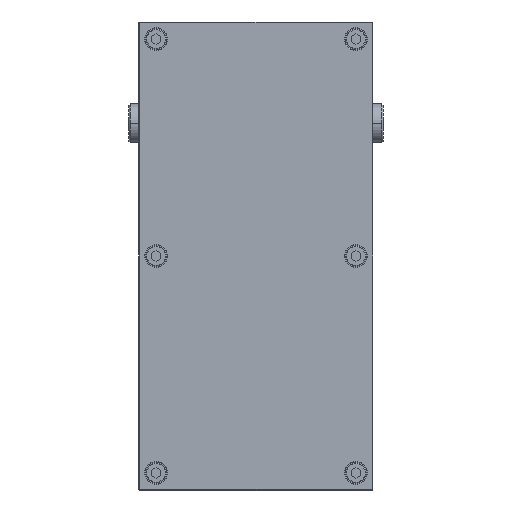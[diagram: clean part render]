
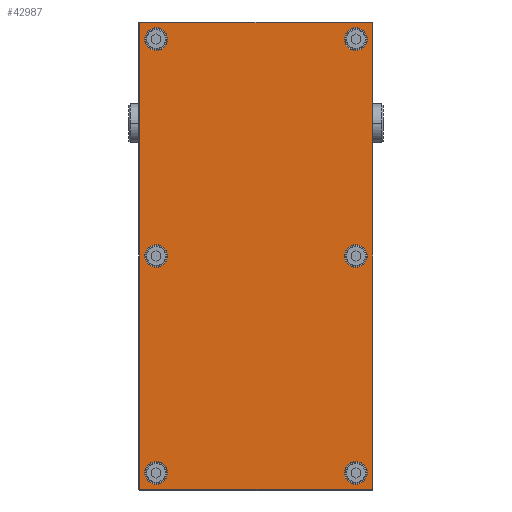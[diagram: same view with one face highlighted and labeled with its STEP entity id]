
A CAD part, front view. The second image highlights one B-rep face of the part: STEP entity #42987.
In plain terms, the highlighted planar face has unit normal (0, -1, 0).
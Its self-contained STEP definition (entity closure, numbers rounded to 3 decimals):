
#41546=CARTESIAN_POINT('',(149.,-9.,-74.));
#41547=DIRECTION('',(0.,-1.,0.));
#41548=DIRECTION('',(0.,0.,-1.));
#41549=AXIS2_PLACEMENT_3D('',#41546,#41547,#41548);
#41551=DIRECTION('',(1.,0.,0.));
#41552=VECTOR('',#41551,298.);
#41553=CARTESIAN_POINT('',(-149.,-9.,
-74.5));
#41554=LINE('',#41553,#41552);
#41555=CARTESIAN_POINT('',(-149.,-9.,-74.));
#41556=DIRECTION('',(0.,-1.,0.));
#41557=DIRECTION('',(-1.,0.,0.));
#41558=AXIS2_PLACEMENT_3D('',#41555,#41556,#41557);
#41560=DIRECTION('',(0.,0.,-1.));
#41561=VECTOR('',#41560,148.);
#41562=CARTESIAN_POINT('',(-149.5,-9.,74.));
#41563=LINE('',#41562,#41561);
#41564=CARTESIAN_POINT('',(-149.,-9.,74.));
#41565=DIRECTION('',(0.,-1.,0.));
#41566=DIRECTION('',(0.,0.,1.));
#41567=AXIS2_PLACEMENT_3D('',#41564,#41565,#41566);
#41569=DIRECTION('',(-1.,0.,0.));
#41570=VECTOR('',#41569,298.);
#41571=CARTESIAN_POINT('',(149.,-9.,
74.5));
#41572=LINE('',#41571,#41570);
#41573=CARTESIAN_POINT('',(149.,-9.,74.));
#41574=DIRECTION('',(0.,-1.,0.));
#41575=DIRECTION('',(1.,0.,0.));
#41576=AXIS2_PLACEMENT_3D('',#41573,#41574,#41575);
#41578=DIRECTION('',(0.,0.,1.));
#41579=VECTOR('',#41578,148.);
#41580=CARTESIAN_POINT('',(149.5,-9.,-74.));
#41581=LINE('',#41580,#41579);
#41582=CARTESIAN_POINT('',(-139.,-9.,-64.));
#41583=DIRECTION('',(0.,1.,0.));
#41584=DIRECTION('',(1.,0.,0.));
#41585=AXIS2_PLACEMENT_3D('',#41582,#41583,#41584);
#41587=CARTESIAN_POINT('',(-139.,-9.,-64.));
#41588=DIRECTION('',(0.,1.,0.));
#41589=DIRECTION('',(-1.,0.,0.));
#41590=AXIS2_PLACEMENT_3D('',#41587,#41588,#41589);
#41592=CARTESIAN_POINT('',(0.,-9.,-64.));
#41593=DIRECTION('',(0.,1.,0.));
#41594=DIRECTION('',(1.,0.,0.));
#41595=AXIS2_PLACEMENT_3D('',#41592,#41593,#41594);
#41597=CARTESIAN_POINT('',(0.,-9.,-64.));
#41598=DIRECTION('',(0.,1.,0.));
#41599=DIRECTION('',(-1.,0.,0.));
#41600=AXIS2_PLACEMENT_3D('',#41597,#41598,#41599);
#41602=CARTESIAN_POINT('',(139.,-9.,-64.));
#41603=DIRECTION('',(0.,1.,0.));
#41604=DIRECTION('',(1.,0.,0.));
#41605=AXIS2_PLACEMENT_3D('',#41602,#41603,#41604);
#41607=CARTESIAN_POINT('',(139.,-9.,-64.));
#41608=DIRECTION('',(0.,1.,0.));
#41609=DIRECTION('',(-1.,0.,0.));
#41610=AXIS2_PLACEMENT_3D('',#41607,#41608,#41609);
#41612=CARTESIAN_POINT('',(139.,-9.,64.));
#41613=DIRECTION('',(0.,1.,0.));
#41614=DIRECTION('',(1.,0.,0.));
#41615=AXIS2_PLACEMENT_3D('',#41612,#41613,#41614);
#41617=CARTESIAN_POINT('',(139.,-9.,64.));
#41618=DIRECTION('',(0.,1.,0.));
#41619=DIRECTION('',(-1.,0.,0.));
#41620=AXIS2_PLACEMENT_3D('',#41617,#41618,#41619);
#41622=CARTESIAN_POINT('',(0.,-9.,64.));
#41623=DIRECTION('',(0.,1.,0.));
#41624=DIRECTION('',(1.,0.,0.));
#41625=AXIS2_PLACEMENT_3D('',#41622,#41623,#41624);
#41627=CARTESIAN_POINT('',(0.,-9.,64.));
#41628=DIRECTION('',(0.,1.,0.));
#41629=DIRECTION('',(-1.,0.,0.));
#41630=AXIS2_PLACEMENT_3D('',#41627,#41628,#41629);
#41632=CARTESIAN_POINT('',(-139.,-9.,64.));
#41633=DIRECTION('',(0.,1.,0.));
#41634=DIRECTION('',(1.,0.,0.));
#41635=AXIS2_PLACEMENT_3D('',#41632,#41633,#41634);
#41637=CARTESIAN_POINT('',(-139.,-9.,64.));
#41638=DIRECTION('',(0.,1.,0.));
#41639=DIRECTION('',(-1.,0.,0.));
#41640=AXIS2_PLACEMENT_3D('',#41637,#41638,#41639);
#42716=CARTESIAN_POINT('',(149.,-9.,-74.5));
#42717=CARTESIAN_POINT('',(149.5,-9.,-74.));
#42718=VERTEX_POINT('',#42716);
#42719=VERTEX_POINT('',#42717);
#42724=CARTESIAN_POINT('',(149.5,-9.,
74.));
#42725=VERTEX_POINT('',#42724);
#42728=CARTESIAN_POINT('',(149.,-9.,74.5));
#42729=VERTEX_POINT('',#42728);
#42732=CARTESIAN_POINT('',(-149.,-9.,
74.5));
#42733=VERTEX_POINT('',#42732);
#42736=CARTESIAN_POINT('',(-149.5,-9.,74.));
#42737=VERTEX_POINT('',#42736);
#42740=CARTESIAN_POINT('',(-149.5,-9.,
-74.));
#42741=VERTEX_POINT('',#42740);
#42744=CARTESIAN_POINT('',(-149.,-9.,-74.5));
#42745=VERTEX_POINT('',#42744);
#42772=CARTESIAN_POINT('',(-131.7,-9.,-64.));
#42773=CARTESIAN_POINT('',(-146.3,-9.,-64.));
#42774=VERTEX_POINT('',#42772);
#42775=VERTEX_POINT('',#42773);
#42788=CARTESIAN_POINT('',(7.3,-9.,-64.));
#42789=CARTESIAN_POINT('',(-7.3,-9.,-64.));
#42790=VERTEX_POINT('',#42788);
#42791=VERTEX_POINT('',#42789);
#42812=CARTESIAN_POINT('',(146.3,-9.,-64.));
#42813=CARTESIAN_POINT('',(131.7,-9.,-64.));
#42814=VERTEX_POINT('',#42812);
#42815=VERTEX_POINT('',#42813);
#42828=CARTESIAN_POINT('',(146.3,-9.,64.));
#42829=CARTESIAN_POINT('',(131.7,-9.,64.));
#42830=VERTEX_POINT('',#42828);
#42831=VERTEX_POINT('',#42829);
#42836=CARTESIAN_POINT('',(7.3,-9.,64.));
#42837=CARTESIAN_POINT('',(-7.3,-9.,64.));
#42838=VERTEX_POINT('',#42836);
#42839=VERTEX_POINT('',#42837);
#42860=CARTESIAN_POINT('',(-131.7,-9.,64.));
#42861=CARTESIAN_POINT('',(-146.3,-9.,64.));
#42862=VERTEX_POINT('',#42860);
#42863=VERTEX_POINT('',#42861);
#42928=CARTESIAN_POINT('',(0.,-9.,0.));
#42929=DIRECTION('',(0.,1.,0.));
#42930=DIRECTION('',(1.,0.,0.));
#42931=AXIS2_PLACEMENT_3D('',#42928,#42929,#42930);
#42932=PLANE('',#42931);
#42934=ORIENTED_EDGE('',*,*,#42933,.F.);
#42936=ORIENTED_EDGE('',*,*,#42935,.F.);
#42938=ORIENTED_EDGE('',*,*,#42937,.F.);
#42940=ORIENTED_EDGE('',*,*,#42939,.F.);
#42942=ORIENTED_EDGE('',*,*,#42941,.F.);
#42944=ORIENTED_EDGE('',*,*,#42943,.F.);
#42946=ORIENTED_EDGE('',*,*,#42945,.F.);
#42948=ORIENTED_EDGE('',*,*,#42947,.F.);
#42949=EDGE_LOOP('',(#42934,#42936,#42938,#42940,#42942,#42944,#42946,#42948));
#42950=FACE_OUTER_BOUND('',#42949,.F.);
#42952=ORIENTED_EDGE('',*,*,#42951,.F.);
#42954=ORIENTED_EDGE('',*,*,#42953,.F.);
#42955=EDGE_LOOP('',(#42952,#42954));
#42956=FACE_BOUND('',#42955,.F.);
#42958=ORIENTED_EDGE('',*,*,#42957,.F.);
#42960=ORIENTED_EDGE('',*,*,#42959,.F.);
#42961=EDGE_LOOP('',(#42958,#42960));
#42962=FACE_BOUND('',#42961,.F.);
#42964=ORIENTED_EDGE('',*,*,#42963,.F.);
#42966=ORIENTED_EDGE('',*,*,#42965,.F.);
#42967=EDGE_LOOP('',(#42964,#42966));
#42968=FACE_BOUND('',#42967,.F.);
#42970=ORIENTED_EDGE('',*,*,#42969,.F.);
#42972=ORIENTED_EDGE('',*,*,#42971,.F.);
#42973=EDGE_LOOP('',(#42970,#42972));
#42974=FACE_BOUND('',#42973,.F.);
#42976=ORIENTED_EDGE('',*,*,#42975,.F.);
#42978=ORIENTED_EDGE('',*,*,#42977,.F.);
#42979=EDGE_LOOP('',(#42976,#42978));
#42980=FACE_BOUND('',#42979,.F.);
#42982=ORIENTED_EDGE('',*,*,#42981,.F.);
#42984=ORIENTED_EDGE('',*,*,#42983,.F.);
#42985=EDGE_LOOP('',(#42982,#42984));
#42986=FACE_BOUND('',#42985,.F.);
#42987=ADVANCED_FACE('',(#42950,#42956,#42962,#42968,#42974,#42980,#42986),
#42932,.F.);
#41550=CIRCLE('',#41549,0.5);
#41559=CIRCLE('',#41558,0.5);
#41568=CIRCLE('',#41567,0.5);
#41577=CIRCLE('',#41576,0.5);
#41586=CIRCLE('',#41585,7.3);
#41591=CIRCLE('',#41590,7.3);
#41596=CIRCLE('',#41595,7.3);
#41601=CIRCLE('',#41600,7.3);
#41606=CIRCLE('',#41605,7.3);
#41611=CIRCLE('',#41610,7.3);
#41616=CIRCLE('',#41615,7.3);
#41621=CIRCLE('',#41620,7.3);
#41626=CIRCLE('',#41625,7.3);
#41631=CIRCLE('',#41630,7.3);
#41636=CIRCLE('',#41635,7.3);
#41641=CIRCLE('',#41640,7.3);
#42933=EDGE_CURVE('',#42718,#42719,#41550,.T.);
#42935=EDGE_CURVE('',#42745,#42718,#41554,.T.);
#42937=EDGE_CURVE('',#42741,#42745,#41559,.T.);
#42939=EDGE_CURVE('',#42737,#42741,#41563,.T.);
#42941=EDGE_CURVE('',#42733,#42737,#41568,.T.);
#42943=EDGE_CURVE('',#42729,#42733,#41572,.T.);
#42945=EDGE_CURVE('',#42725,#42729,#41577,.T.);
#42947=EDGE_CURVE('',#42719,#42725,#41581,.T.);
#42951=EDGE_CURVE('',#42774,#42775,#41586,.T.);
#42953=EDGE_CURVE('',#42775,#42774,#41591,.T.);
#42957=EDGE_CURVE('',#42790,#42791,#41596,.T.);
#42959=EDGE_CURVE('',#42791,#42790,#41601,.T.);
#42963=EDGE_CURVE('',#42814,#42815,#41606,.T.);
#42965=EDGE_CURVE('',#42815,#42814,#41611,.T.);
#42969=EDGE_CURVE('',#42830,#42831,#41616,.T.);
#42971=EDGE_CURVE('',#42831,#42830,#41621,.T.);
#42975=EDGE_CURVE('',#42838,#42839,#41626,.T.);
#42977=EDGE_CURVE('',#42839,#42838,#41631,.T.);
#42981=EDGE_CURVE('',#42862,#42863,#41636,.T.);
#42983=EDGE_CURVE('',#42863,#42862,#41641,.T.);
